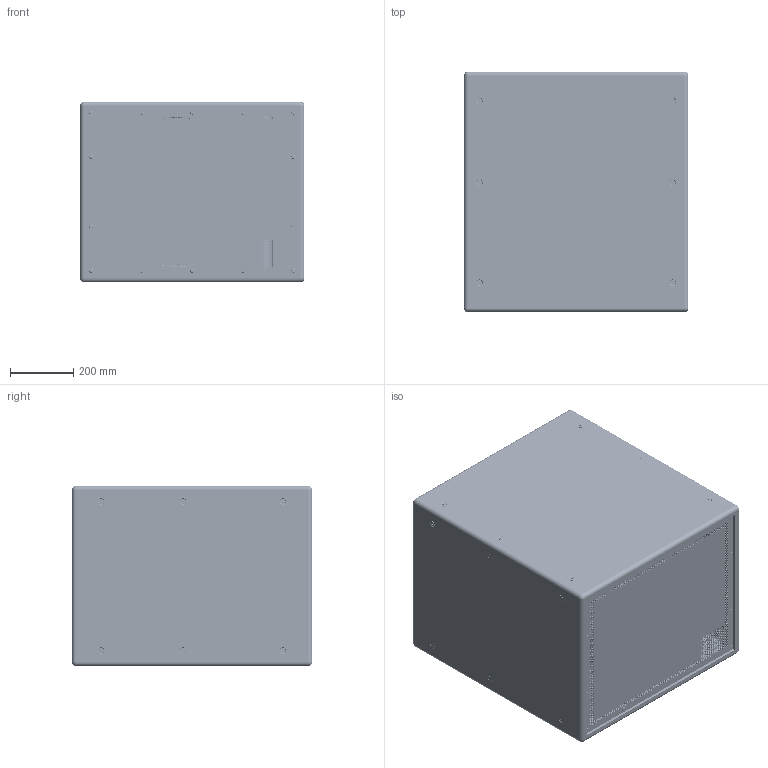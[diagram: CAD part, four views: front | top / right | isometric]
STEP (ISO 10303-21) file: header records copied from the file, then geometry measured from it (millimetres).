
FILE_DESCRIPTION (( 'STEP AP214' ), '1' );
FILE_NAME ('BL118SS-R0.1.STEP', '2024-12-06T12:10:19', ( '' ), ( '' ), 'SwSTEP 2.0', 'SolidWorks 2024', '' );
FILE_SCHEMA (( 'AUTOMOTIVE_DESIGN' ));
Length unit declared in the file: millimetre
Products named in the file (2): BL118SS-R0.1; Default_defeature^BL118SS Assy
Assembly tree (1 placements, depth 2):
  BL118SS-R0.1
    Default_defeature^BL118SS Assy
Bounding box: 712 x 762 x 571.5 mm (x, y, z)
Surface area: 8357960.4 mm2 (no closed solid volume)
Topology: 0 solids, 149 shells, 7349 faces, 18577 edges, 11640 vertices
Faces by surface type: cylinder 2666, plane 1931, bspline 1691, cone 644, torus 307, sphere 110
Entity records: 312689 total; most frequent: CARTESIAN_POINT 144403, ORIENTED_EDGE 36741, DIRECTION 31811, EDGE_CURVE 18511, AXIS2_PLACEMENT_3D 12177, VERTEX_POINT 11636, EDGE_LOOP 8953, LINE 7457
